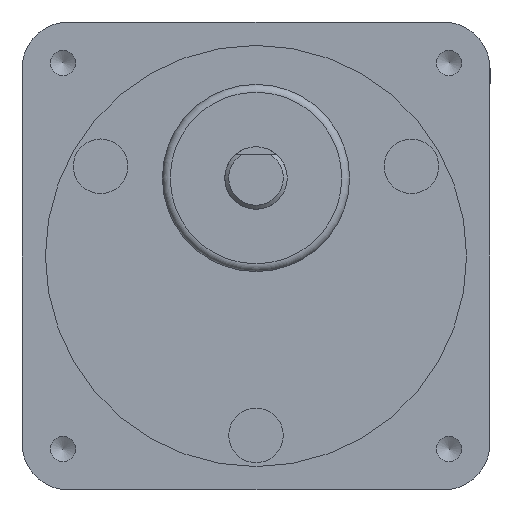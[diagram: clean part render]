
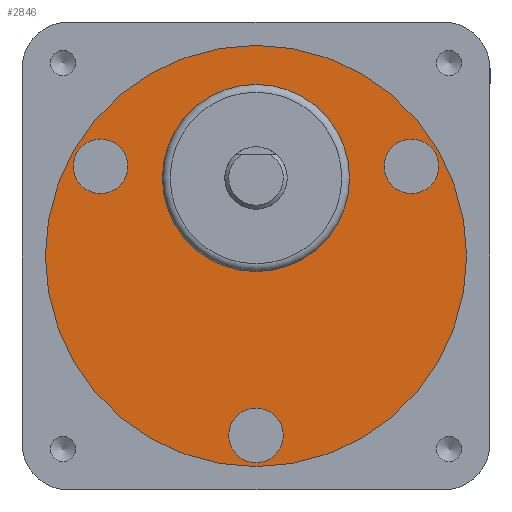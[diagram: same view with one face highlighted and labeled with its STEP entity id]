
A CAD part, front view. The second image highlights one B-rep face of the part: STEP entity #2846.
In plain terms, the highlighted planar face has unit normal (0, -1, 0).
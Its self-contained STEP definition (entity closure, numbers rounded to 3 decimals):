
#109=FACE_BOUND('',#479,.T.);
#110=FACE_BOUND('',#480,.T.);
#111=FACE_BOUND('',#481,.T.);
#112=FACE_BOUND('',#482,.T.);
#172=PLANE('',#3171);
#286=FACE_OUTER_BOUND('',#478,.T.);
#478=EDGE_LOOP('',(#2113));
#479=EDGE_LOOP('',(#2114));
#480=EDGE_LOOP('',(#2115));
#481=EDGE_LOOP('',(#2116));
#482=EDGE_LOOP('',(#2117));
#1074=CIRCLE('',#3075,3.5);
#1076=CIRCLE('',#3079,3.5);
#1078=CIRCLE('',#3083,3.5);
#1127=CIRCLE('',#3170,27.);
#1128=CIRCLE('',#3172,12.);
#1261=VERTEX_POINT('',#4397);
#1263=VERTEX_POINT('',#4404);
#1265=VERTEX_POINT('',#4411);
#1326=VERTEX_POINT('',#4709);
#1327=VERTEX_POINT('',#4713);
#1527=EDGE_CURVE('',#1261,#1261,#1074,.T.);
#1530=EDGE_CURVE('',#1263,#1263,#1076,.T.);
#1533=EDGE_CURVE('',#1265,#1265,#1078,.T.);
#1625=EDGE_CURVE('',#1326,#1326,#1127,.T.);
#1626=EDGE_CURVE('',#1327,#1327,#1128,.T.);
#2113=ORIENTED_EDGE('',*,*,#1625,.T.);
#2114=ORIENTED_EDGE('',*,*,#1527,.T.);
#2115=ORIENTED_EDGE('',*,*,#1530,.T.);
#2116=ORIENTED_EDGE('',*,*,#1533,.T.);
#2117=ORIENTED_EDGE('',*,*,#1626,.F.);
#2846=ADVANCED_FACE('',(#286,#109,#110,#111,#112),#172,.F.);
#3075=AXIS2_PLACEMENT_3D('',#4398,#3448,#3449);
#3079=AXIS2_PLACEMENT_3D('',#4405,#3457,#3458);
#3083=AXIS2_PLACEMENT_3D('',#4412,#3466,#3467);
#3170=AXIS2_PLACEMENT_3D('',#4711,#3683,#3684);
#3171=AXIS2_PLACEMENT_3D('',#4712,#3685,#3686);
#3172=AXIS2_PLACEMENT_3D('',#4714,#3687,#3688);
#3448=DIRECTION('center_axis',(0.,1.,0.));
#3449=DIRECTION('ref_axis',(0.5,0.,-0.866));
#3457=DIRECTION('center_axis',(0.,1.,0.));
#3458=DIRECTION('ref_axis',(0.5,0.,0.866));
#3466=DIRECTION('center_axis',(0.,1.,0.));
#3467=DIRECTION('ref_axis',(-1.,0.,0.));
#3683=DIRECTION('center_axis',(0.,-1.,0.));
#3684=DIRECTION('ref_axis',(-1.,0.,0.));
#3685=DIRECTION('center_axis',(0.,1.,0.));
#3686=DIRECTION('ref_axis',(0.,0.,1.));
#3687=DIRECTION('center_axis',(0.,-1.,0.));
#3688=DIRECTION('ref_axis',(-1.,0.,0.));
#4397=CARTESIAN_POINT('',(18.169,0.5,14.531));
#4398=CARTESIAN_POINT('Origin',(19.919,0.5,11.5));
#4404=CARTESIAN_POINT('',(-21.669,0.5,8.469));
#4405=CARTESIAN_POINT('Origin',(-19.919,0.5,11.5));
#4411=CARTESIAN_POINT('',(3.5,0.5,-23.));
#4412=CARTESIAN_POINT('Origin',(0.,0.5,-23.));
#4709=CARTESIAN_POINT('',(27.,0.5,0.));
#4711=CARTESIAN_POINT('Origin',(0.,0.5,0.));
#4712=CARTESIAN_POINT('Origin',(0.,0.5,0.));
#4713=CARTESIAN_POINT('',(12.,0.5,10.));
#4714=CARTESIAN_POINT('Origin',(0.,0.5,10.));
